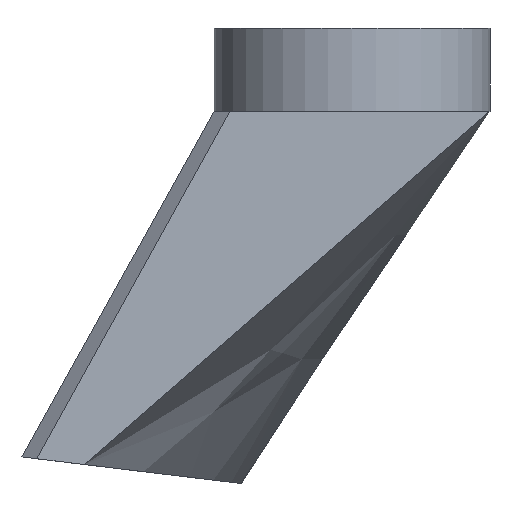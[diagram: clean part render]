
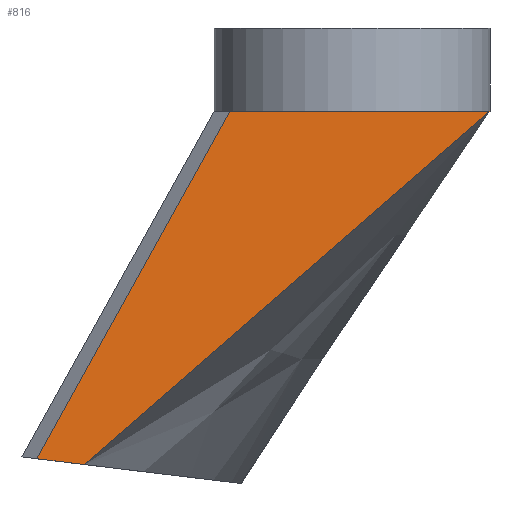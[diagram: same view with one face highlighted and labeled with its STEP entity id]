
A CAD part, front view. The second image highlights one B-rep face of the part: STEP entity #816.
In plain terms, the highlighted planar face has unit normal (0, -0.998, 0.059).
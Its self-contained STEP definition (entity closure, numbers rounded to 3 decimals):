
#100=FACE_OUTER_BOUND('',#141,.T.);
#141=EDGE_LOOP('',(#630,#631,#632,#633,#634,#635));
#198=LINE('',#1155,#309);
#204=LINE('',#1177,#315);
#215=LINE('',#1238,#326);
#216=LINE('',#1240,#327);
#217=LINE('',#1242,#328);
#218=LINE('',#1243,#329);
#309=VECTOR('',#933,10.);
#315=VECTOR('',#941,10.);
#326=VECTOR('',#962,20.57);
#327=VECTOR('',#963,10.);
#328=VECTOR('',#964,10.);
#329=VECTOR('',#965,10.);
#414=VERTEX_POINT('',#1152);
#415=VERTEX_POINT('',#1154);
#420=VERTEX_POINT('',#1166);
#427=VERTEX_POINT('',#1237);
#428=VERTEX_POINT('',#1239);
#429=VERTEX_POINT('',#1241);
#486=EDGE_CURVE('',#414,#415,#198,.T.);
#493=EDGE_CURVE('',#414,#420,#204,.T.);
#505=EDGE_CURVE('',#427,#420,#215,.T.);
#506=EDGE_CURVE('',#428,#427,#216,.T.);
#507=EDGE_CURVE('',#428,#429,#217,.T.);
#508=EDGE_CURVE('',#415,#429,#218,.T.);
#630=ORIENTED_EDGE('',*,*,#486,.F.);
#631=ORIENTED_EDGE('',*,*,#493,.T.);
#632=ORIENTED_EDGE('',*,*,#505,.F.);
#633=ORIENTED_EDGE('',*,*,#506,.F.);
#634=ORIENTED_EDGE('',*,*,#507,.T.);
#635=ORIENTED_EDGE('',*,*,#508,.F.);
#781=PLANE('',#857);
#816=ADVANCED_FACE('',(#100),#781,.F.);
#857=AXIS2_PLACEMENT_3D('',#1236,#960,#961);
#933=DIRECTION('',(0.485,0.052,0.873));
#941=DIRECTION('',(0.993,-0.007,-0.12));
#960=DIRECTION('center_axis',(0.,0.998,-0.059));
#961=DIRECTION('ref_axis',(0.,0.059,0.998));
#962=DIRECTION('',(-0.754,-0.039,-0.656));
#963=DIRECTION('',(1.,0.,0.));
#964=DIRECTION('',(-1.,0.,0.));
#965=DIRECTION('',(1.,0.,0.));
#1152=CARTESIAN_POINT('',(14.076,-14.946,-15.593));
#1154=CARTESIAN_POINT('',(21.072,-14.2,-3.));
#1155=CARTESIAN_POINT('',(21.294,-14.176,-2.601));
#1166=CARTESIAN_POINT('',(15.801,-14.959,-15.802));
#1177=CARTESIAN_POINT('',(16.033,-14.96,-15.83));
#1236=CARTESIAN_POINT('Origin',(20.5,-14.2,-3.));
#1237=CARTESIAN_POINT('',(30.5,-14.2,-3.));
#1238=CARTESIAN_POINT('',(30.5,-14.2,-3.));
#1239=CARTESIAN_POINT('',(27.4,-14.2,-3.));
#1240=CARTESIAN_POINT('',(23.,-14.2,-3.));
#1241=CARTESIAN_POINT('',(23.6,-14.2,-3.));
#1242=CARTESIAN_POINT('',(26.45,-14.2,-3.));
#1243=CARTESIAN_POINT('',(23.,-14.2,-3.));
